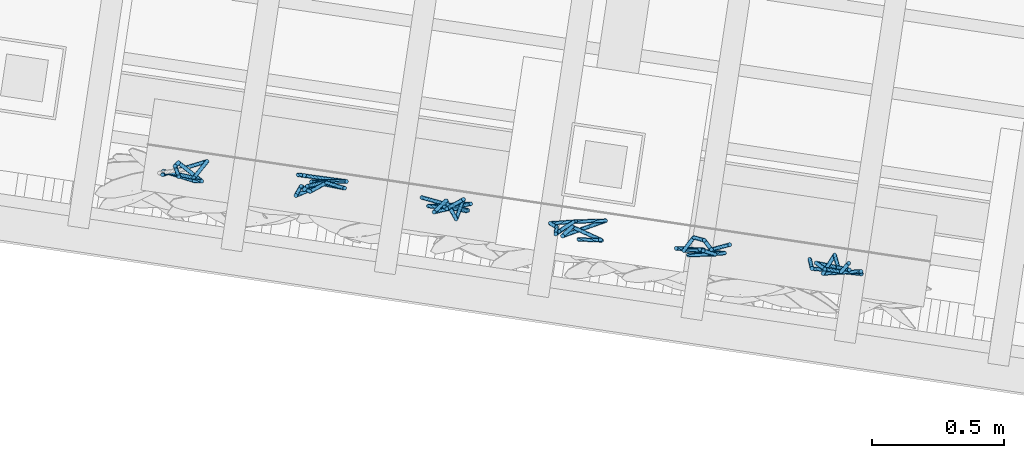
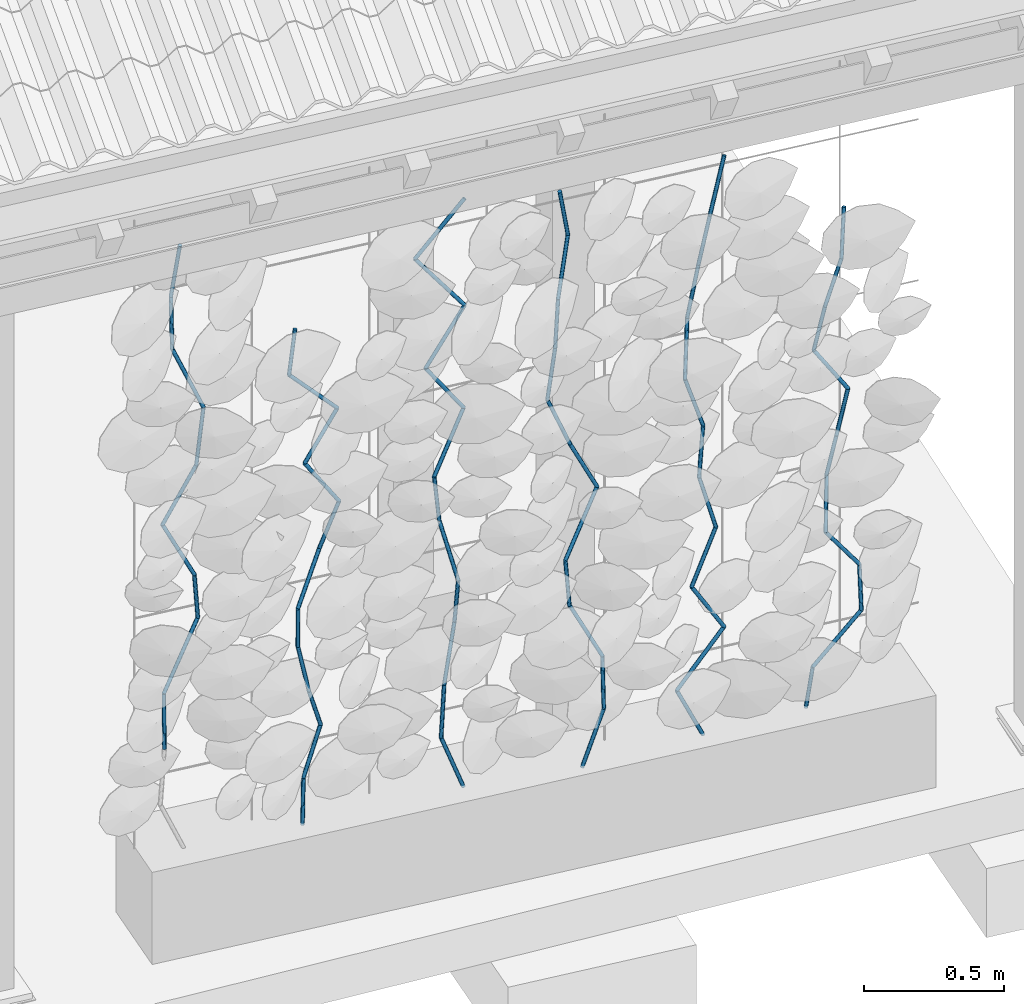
# One storey, part 118 of 131: 64 members, 1 element without a shape of its own.
"""IFC4 building model written with IfcOpenShell, lengths in metres."""

from ifc_helpers import new_model, si_unit, direction, frame, origin_with_axes, place, context, subcontext, project, spatial, circle, extrude, material, material_profile, profile_set, profile_usage, type_object, element, aggregate, save


model = new_model("IFC4")

# Units and contexts
model_context = context("Model", 3, precision=1e-05, world=origin_with_axes(), true_north=direction((0.0, 1.0)))
body_context = subcontext(model_context, "Body", "Model", "MODEL_VIEW")
ifc_project = project(units=[si_unit("AREAUNIT", "SQUARE_METRE"), si_unit("VOLUMEUNIT", "CUBIC_METRE"), si_unit("LENGTHUNIT", "METRE")], contexts=[model_context])

# Site, building, storey
site_placement = place(None, origin_with_axes())
site = spatial("IfcSite", under=ifc_project, at=site_placement, Name="Lares · Rua das Mercês · artigo 4771")
building_placement = place(site_placement, frame((15.0, 9.7, 14.65), z_axis=(0.0, 0.0, 1.0), x_axis=(0.989015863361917, -0.147809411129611, 0.0)))
building = spatial("IfcBuilding", under=site, at=building_placement, Name="Casa Sobreposta")
storey_placement = place(building_placement, origin_with_axes())
storey = spatial("IfcBuildingStorey", under=building, at=storey_placement, Name="00 · Habitação e estacionamento", Elevation=14.65)

# Assembly, members
assembly_placement = place(storey_placement, origin_with_axes())
assembly = element("IfcElementAssembly", 1, at=assembly_placement, inside=storey, Name="Fachada sul e pátio · estrutura e trepadeiras", ObjectType="LIVING_SHADE_TRELLIS", PredefinedType="USERDEFINED")
ifc_material = material(Name="Ramos de trepadeiras", Category="wood")
ifc_material_profile = material_profile(ifc_material, circle(Radius=0.0075))
ifc_profile_set = profile_set([ifc_material_profile], Name="D0.015")
ifc_profile_usage_1 = profile_usage(ifc_profile_set)
member_type = type_object("IfcMemberType", Name="D0.015 / vine_wood", PredefinedType="NOTDEFINED", material=ifc_profile_set)
member_1_placement = place(assembly_placement, frame((28.5749850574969, -1.71359357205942, 0.832915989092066), z_axis=(-0.0115075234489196, -0.00834781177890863, 0.999898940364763), x_axis=(0.999933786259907, -9.6069000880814e-05, 0.0115071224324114)))
member_1 = element("IfcMember", 2, at=member_1_placement, type_object=member_type, material=ifc_profile_usage_1, Name="Trepadeiras · ramo", context=body_context, shape_type="SweptSolid", body=[
    extrude(circle(Radius=0.0075), origin_with_axes(), (0.0, 0.0, 1.0), 0.241482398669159),
])
ifc_profile_usage_2 = profile_usage(ifc_profile_set)
member_2_placement = place(assembly_placement, frame((28.5722061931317, -1.71560942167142, 1.0743739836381), z_axis=(0.533464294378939, 0.251838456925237, 0.807460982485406), x_axis=(0.426902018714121, -0.904297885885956, 0.0)))
member_2 = element("IfcMember", 3, at=member_2_placement, type_object=member_type, material=ifc_profile_usage_2, Name="Trepadeiras · ramo", context=body_context, shape_type="SweptSolid", body=[
    extrude(circle(Radius=0.0075), origin_with_axes(), (0.0, 0.0, 1.0), 0.29903363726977),
])
ifc_profile_usage_3 = profile_usage(ifc_profile_set)
member_3_placement = place(assembly_placement, frame((28.7317299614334, -1.64030125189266, 1.31583197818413), z_axis=(-0.158977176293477, -0.272002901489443, 0.949073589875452), x_axis=(-0.863351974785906, 0.504602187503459, 0.0)))
member_3 = element("IfcMember", 4, at=member_3_placement, type_object=member_type, material=ifc_profile_usage_3, Name="Trepadeiras · ramo", context=body_context, shape_type="SweptSolid", body=[
    extrude(circle(Radius=0.0075), origin_with_axes(), (0.0, 0.0, 1.0), 0.254414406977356),
])
ifc_profile_usage_4 = profile_usage(ifc_profile_set)
member_4_placement = place(assembly_placement, frame((28.6912838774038, -1.70950270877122, 1.55728997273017), z_axis=(-0.441663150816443, 0.0283630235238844, 0.89673251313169), x_axis=(0.0640866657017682, 0.997944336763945, 0.0)))
member_4 = element("IfcMember", 5, at=member_4_placement, type_object=member_type, material=ifc_profile_usage_4, Name="Trepadeiras · ramo", context=body_context, shape_type="SweptSolid", body=[
    extrude(circle(Radius=0.0075), origin_with_axes(), (0.0, 0.0, 1.0), 0.269264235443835),
])
ifc_profile_usage_5 = profile_usage(ifc_profile_set)
member_5_placement = place(assembly_placement, frame((28.5723597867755, -1.70186556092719, 1.7987479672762), z_axis=(0.44971328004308, -0.0700878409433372, 0.890418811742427), x_axis=(-0.153991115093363, -0.988072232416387, 0.0)))
member_5 = element("IfcMember", 6, at=member_5_placement, type_object=member_type, material=ifc_profile_usage_5, Name="Trepadeiras · ramo", context=body_context, shape_type="SweptSolid", body=[
    extrude(circle(Radius=0.0075), origin_with_axes(), (0.0, 0.0, 1.0), 0.271173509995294),
])
ifc_profile_usage_6 = profile_usage(ifc_profile_set)
member_6_placement = place(assembly_placement, frame((28.6943101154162, -1.72087152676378, 2.04020596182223), z_axis=(0.117988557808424, 0.0130437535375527, 0.992929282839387), x_axis=(0.109881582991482, -0.993944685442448, 0.0)))
member_6 = element("IfcMember", 7, at=member_6_placement, type_object=member_type, material=ifc_profile_usage_6, Name="Trepadeiras · ramo", context=body_context, shape_type="SweptSolid", body=[
    extrude(circle(Radius=0.0075), origin_with_axes(), (0.0, 0.0, 1.0), 0.24317743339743),
])
ifc_profile_usage_7 = profile_usage(ifc_profile_set)
member_7_placement = place(assembly_placement, frame((28.7230022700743, -1.71769958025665, 2.28166395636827), z_axis=(-0.366803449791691, 0.210846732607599, 0.906089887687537), x_axis=(0.498355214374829, 0.866972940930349, 0.0)))
member_7 = element("IfcMember", 8, at=member_7_placement, type_object=member_type, material=ifc_profile_usage_7, Name="Trepadeiras · ramo", context=body_context, shape_type="SweptSolid", body=[
    extrude(circle(Radius=0.0075), origin_with_axes(), (0.0, 0.0, 1.0), 0.26648348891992),
])
ifc_profile_usage_8 = profile_usage(ifc_profile_set)
member_8_placement = place(assembly_placement, frame((28.625255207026, -1.66151240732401, 2.5231219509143), z_axis=(-0.0444062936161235, -0.0617658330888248, 0.997102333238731), x_axis=(-0.811939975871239, 0.583740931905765, 0.0)))
member_8 = element("IfcMember", 9, at=member_8_placement, type_object=member_type, material=ifc_profile_usage_8, Name="Trepadeiras · ramo", context=body_context, shape_type="SweptSolid", body=[
    extrude(circle(Radius=0.0075), origin_with_axes(), (0.0, 0.0, 1.0), 0.24215969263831),
])
ifc_profile_usage_9 = profile_usage(ifc_profile_set)
member_9_placement = place(assembly_placement, frame((28.6145017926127, -1.67646960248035, 2.76457994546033), z_axis=(0.0813731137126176, -0.15348360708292, 0.984795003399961), x_axis=(-0.883509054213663, -0.468414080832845, 0.0)))
member_9 = element("IfcMember", 10, at=member_9_placement, type_object=member_type, material=ifc_profile_usage_9, Name="Trepadeiras · ramo", context=body_context, shape_type="SweptSolid", body=[
    extrude(circle(Radius=0.0075), origin_with_axes(), (0.0, 0.0, 1.0), 0.245186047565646),
])
ifc_profile_usage_10 = profile_usage(ifc_profile_set)
member_10_placement = place(assembly_placement, frame((29.112347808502, -1.69130840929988, 0.35), z_axis=(0.0459054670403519, 0.0712523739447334, 0.996401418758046), x_axis=(0.840639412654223, -0.541595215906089, 0.0)))
member_10 = element("IfcMember", 11, at=member_10_placement, type_object=member_type, material=ifc_profile_usage_10, Name="Trepadeiras · ramo", context=body_context, shape_type="SweptSolid", body=[
    extrude(circle(Radius=0.0075), origin_with_axes(), (0.0, 0.0, 1.0), 0.19361986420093),
])
ifc_profile_usage_11 = profile_usage(ifc_profile_set)
member_11_placement = place(assembly_placement, frame((29.1212360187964, -1.67751253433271, 0.542923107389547), z_axis=(0.367595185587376, 0.141279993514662, 0.919191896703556), x_axis=(0.358751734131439, -0.933433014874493, 0.0)))
member_11 = element("IfcMember", 12, at=member_11_placement, type_object=member_type, material=ifc_profile_usage_11, Name="Trepadeiras · ramo", context=body_context, shape_type="SweptSolid", body=[
    extrude(circle(Radius=0.0075), origin_with_axes(), (0.0, 0.0, 1.0), 0.209883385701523),
])
ifc_profile_usage_12 = profile_usage(ifc_profile_set)
member_12_placement = place(assembly_placement, frame((29.1983881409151, -1.64786021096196, 0.735846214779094), z_axis=(-0.3051563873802, -0.231978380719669, 0.92361550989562), x_axis=(-0.605181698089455, 0.796087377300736, 0.0)))
member_12 = element("IfcMember", 13, at=member_12_placement, type_object=member_type, material=ifc_profile_usage_12, Name="Trepadeiras · ramo", context=body_context, shape_type="SweptSolid", body=[
    extrude(circle(Radius=0.0075), origin_with_axes(), (0.0, 0.0, 1.0), 0.208878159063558),
])
ifc_profile_usage_13 = profile_usage(ifc_profile_set)
member_13_placement = place(assembly_placement, frame((29.1346476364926, -1.69631542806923, 0.928769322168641), z_axis=(-0.183770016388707, 0.0772300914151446, 0.979930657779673), x_axis=(0.387431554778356, 0.921898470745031, 0.0)))
member_13 = element("IfcMember", 14, at=member_13_placement, type_object=member_type, material=ifc_profile_usage_13, Name="Trepadeiras · ramo", context=body_context, shape_type="SweptSolid", body=[
    extrude(circle(Radius=0.0075), origin_with_axes(), (0.0, 0.0, 1.0), 0.19687424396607),
])
ifc_profile_usage_14 = profile_usage(ifc_profile_set)
member_14_placement = place(assembly_placement, frame((29.0984680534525, -1.68111081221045, 1.12169242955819), z_axis=(-0.074917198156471, -0.192844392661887, 0.978365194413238), x_axis=(-0.932131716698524, 0.362119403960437, 0.0)))
member_14 = element("IfcMember", 15, at=member_14_placement, type_object=member_type, material=ifc_profile_usage_14, Name="Trepadeiras · ramo", context=body_context, shape_type="SweptSolid", body=[
    extrude(circle(Radius=0.0075), origin_with_axes(), (0.0, 0.0, 1.0), 0.197189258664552),
])
ifc_profile_usage_15 = profile_usage(ifc_profile_set)
member_15_placement = place(assembly_placement, frame((29.0836951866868, -1.71913765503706, 1.31461553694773), z_axis=(0.46899645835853, 0.284231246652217, 0.836214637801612), x_axis=(0.518289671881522, -0.85520513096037, 4.23222490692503e-17)))
member_15 = element("IfcMember", 16, at=member_15_placement, type_object=member_type, material=ifc_profile_usage_15, Name="Trepadeiras · ramo", context=body_context, shape_type="SweptSolid", body=[
    extrude(circle(Radius=0.0075), origin_with_axes(), (0.0, 0.0, 1.0), 0.23071003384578),
])
ifc_profile_usage_16 = profile_usage(ifc_profile_set)
member_16_placement = place(assembly_placement, frame((29.1918973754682, -1.6535626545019, 1.50753864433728), z_axis=(0.344333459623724, -0.0518501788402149, 0.937414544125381), x_axis=(-0.148902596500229, -0.988851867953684, 0.0)))
member_16 = element("IfcMember", 17, at=member_16_placement, type_object=member_type, material=ifc_profile_usage_16, Name="Trepadeiras · ramo", context=body_context, shape_type="SweptSolid", body=[
    extrude(circle(Radius=0.0075), origin_with_axes(), (0.0, 0.0, 1.0), 0.20580340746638),
])
ifc_profile_usage_17 = profile_usage(ifc_profile_set)
member_17_placement = place(assembly_placement, frame((29.2627623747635, -1.66423359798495, 1.70046175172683), z_axis=(-0.556224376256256, 0.0257593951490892, 0.830632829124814), x_axis=(0.0462615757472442, 0.998929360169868, 0.0)))
member_17 = element("IfcMember", 18, at=member_17_placement, type_object=member_type, material=ifc_profile_usage_17, Name="Trepadeiras · ramo", context=body_context, shape_type="SweptSolid", body=[
    extrude(circle(Radius=0.0075), origin_with_axes(), (0.0, 0.0, 1.0), 0.232260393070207),
])
ifc_profile_usage_18 = profile_usage(ifc_profile_set)
member_18_placement = place(assembly_placement, frame((29.133573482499, -1.65825071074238, 1.89338485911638), z_axis=(0.565369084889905, 0.0880131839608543, 0.820128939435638), x_axis=(0.153821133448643, -0.988098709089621, 0.0)))
member_18 = element("IfcMember", 19, at=member_18_placement, type_object=member_type, material=ifc_profile_usage_18, Name="Trepadeiras · ramo", context=body_context, shape_type="SweptSolid", body=[
    extrude(circle(Radius=0.0075), origin_with_axes(), (0.0, 0.0, 1.0), 0.235235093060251),
])
ifc_profile_usage_19 = profile_usage(ifc_profile_set)
member_19_placement = place(assembly_placement, frame((29.2665681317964, -1.63754692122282, 2.08630796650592), z_axis=(-0.693244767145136, -0.00975573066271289, 0.720636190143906), x_axis=(-0.0140711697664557, 0.999900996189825, 0.0)))
member_19 = element("IfcMember", 20, at=member_19_placement, type_object=member_type, material=ifc_profile_usage_19, Name="Trepadeiras · ramo", context=body_context, shape_type="SweptSolid", body=[
    extrude(circle(Radius=0.0075), origin_with_axes(), (0.0, 0.0, 1.0), 0.267712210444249),
])
ifc_profile_usage_20 = profile_usage(ifc_profile_set)
member_20_placement = place(assembly_placement, frame((29.0809780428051, -1.64015864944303, 2.27923107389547), z_axis=(0.120581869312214, 0.0060911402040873, 0.992684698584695), x_axis=(0.0504502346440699, -0.998726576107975, 0.0)))
member_20 = element("IfcMember", 21, at=member_20_placement, type_object=member_type, material=ifc_profile_usage_20, Name="Trepadeiras · ramo", context=body_context, shape_type="SweptSolid", body=[
    extrude(circle(Radius=0.0075), origin_with_axes(), (0.0, 0.0, 1.0), 0.194344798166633),
])
ifc_profile_usage_21 = profile_usage(ifc_profile_set)
member_21_placement = place(assembly_placement, frame((29.7317866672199, -1.68120411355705, 0.35), z_axis=(-0.340028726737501, 0.0134025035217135, 0.940319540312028), x_axis=(0.0393852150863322, 0.999224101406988, 2.396751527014e-18)))
member_21 = element("IfcMember", 22, at=member_21_placement, type_object=member_type, material=ifc_profile_usage_21, Name="Trepadeiras · ramo", context=body_context, shape_type="SweptSolid", body=[
    extrude(circle(Radius=0.0075), origin_with_axes(), (0.0, 0.0, 1.0), 0.246825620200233),
])
ifc_profile_usage_22 = profile_usage(ifc_profile_set)
member_22_placement = place(assembly_placement, frame((29.647858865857, -1.67789603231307, 0.582094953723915), z_axis=(0.0399997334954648, -0.026016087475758, 0.998860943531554), x_axis=(-0.545227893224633, -0.838287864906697, 0.0)))
member_22 = element("IfcMember", 23, at=member_22_placement, type_object=member_type, material=ifc_profile_usage_22, Name="Trepadeiras · ramo", context=body_context, shape_type="SweptSolid", body=[
    extrude(circle(Radius=0.0075), origin_with_axes(), (0.0, 0.0, 1.0), 0.232359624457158),
])
ifc_profile_usage_23 = profile_usage(ifc_profile_set)
member_23_placement = place(assembly_placement, frame((29.6571531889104, -1.68394112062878, 0.814189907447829), z_axis=(0.235799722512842, 0.183261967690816, 0.954365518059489), x_axis=(0.613653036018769, -0.789575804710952, 0.0)))
member_23 = element("IfcMember", 24, at=member_23_placement, type_object=member_type, material=ifc_profile_usage_23, Name="Trepadeiras · ramo", context=body_context, shape_type="SweptSolid", body=[
    extrude(circle(Radius=0.0075), origin_with_axes(), (0.0, 0.0, 1.0), 0.243192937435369),
])
ifc_profile_usage_24 = profile_usage(ifc_profile_set)
member_24_placement = place(assembly_placement, frame((29.7144980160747, -1.63937310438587, 1.04628486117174), z_axis=(-0.0670096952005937, -0.316654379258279, 0.946171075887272), x_axis=(-0.978333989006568, 0.207032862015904, 0.0)))
member_24 = element("IfcMember", 25, at=member_24_placement, type_object=member_type, material=ifc_profile_usage_24, Name="Trepadeiras · ramo", context=body_context, shape_type="SweptSolid", body=[
    extrude(circle(Radius=0.0075), origin_with_axes(), (0.0, 0.0, 1.0), 0.245299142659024),
])
ifc_profile_usage_25 = profile_usage(ifc_profile_set)
member_25_placement = place(assembly_placement, frame((29.6980605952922, -1.71704815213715, 1.27837981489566), z_axis=(-0.19641976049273, 0.256738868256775, 0.946310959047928), x_axis=(0.794223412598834, 0.607625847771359, 0.0)))
member_25 = element("IfcMember", 26, at=member_25_placement, type_object=member_type, material=ifc_profile_usage_25, Name="Trepadeiras · ramo", context=body_context, shape_type="SweptSolid", body=[
    extrude(circle(Radius=0.0075), origin_with_axes(), (0.0, 0.0, 1.0), 0.245262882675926),
])
ifc_profile_usage_26 = profile_usage(ifc_profile_set)
member_26_placement = place(assembly_placement, frame((29.6498861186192, -1.65407963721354, 1.51047476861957), z_axis=(-0.160183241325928, -0.205358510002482, 0.965489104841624), x_axis=(-0.788495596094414, 0.615040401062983, 0.0)))
member_26 = element("IfcMember", 27, at=member_26_placement, type_object=member_type, material=ifc_profile_usage_26, Name="Trepadeiras · ramo", context=body_context, shape_type="SweptSolid", body=[
    extrude(circle(Radius=0.0075), origin_with_axes(), (0.0, 0.0, 1.0), 0.240391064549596),
])
ifc_profile_usage_27 = profile_usage(ifc_profile_set)
member_27_placement = place(assembly_placement, frame((29.6113794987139, -1.70344598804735, 1.74256972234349), z_axis=(0.487994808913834, 0.190415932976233, 0.851823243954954), x_axis=(0.363507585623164, -0.931591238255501, 0.0)))
member_27 = element("IfcMember", 28, at=member_27_placement, type_object=member_type, material=ifc_profile_usage_27, Name="Trepadeiras · ramo", context=body_context, shape_type="SweptSolid", body=[
    extrude(circle(Radius=0.0075), origin_with_axes(), (0.0, 0.0, 1.0), 0.272468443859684),
])
ifc_profile_usage_28 = profile_usage(ifc_profile_set)
member_28_placement = place(assembly_placement, frame((29.7443426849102, -1.65156365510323, 1.9746646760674), z_axis=(-0.560332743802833, -0.115226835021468, 0.8202133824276), x_axis=(-0.201425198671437, 0.979503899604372, 0.0)))
member_28 = element("IfcMember", 29, at=member_28_placement, type_object=member_type, material=ifc_profile_usage_28, Name="Trepadeiras · ramo", context=body_context, shape_type="SweptSolid", body=[
    extrude(circle(Radius=0.0075), origin_with_axes(), (0.0, 0.0, 1.0), 0.282968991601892),
])
ifc_profile_usage_29 = profile_usage(ifc_profile_set)
member_29_placement = place(assembly_placement, frame((29.5857858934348, -1.68416927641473, 2.20675962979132), z_axis=(0.548330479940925, 0.0211627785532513, 0.835993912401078), x_axis=(0.038566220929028, -0.999256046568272, 0.0)))
member_29 = element("IfcMember", 30, at=member_29_placement, type_object=member_type, material=ifc_profile_usage_29, Name="Trepadeiras · ramo", context=body_context, shape_type="SweptSolid", body=[
    extrude(circle(Radius=0.0075), origin_with_axes(), (0.0, 0.0, 1.0), 0.277627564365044),
])
ifc_profile_usage_30 = profile_usage(ifc_profile_set)
member_30_placement = place(assembly_placement, frame((29.7380175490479, -1.67829390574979, 2.43885458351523), z_axis=(-0.614491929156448, 0.0768333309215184, 0.785172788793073), x_axis=(0.124069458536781, 0.992273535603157, 0.0)))
member_30 = element("IfcMember", 31, at=member_30_placement, type_object=member_type, material=ifc_profile_usage_30, Name="Trepadeiras · ramo", context=body_context, shape_type="SweptSolid", body=[
    extrude(circle(Radius=0.0075), origin_with_axes(), (0.0, 0.0, 1.0), 0.295597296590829),
])
ifc_profile_usage_31 = profile_usage(ifc_profile_set)
member_31_placement = place(assembly_placement, frame((29.5563753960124, -1.65558218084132, 2.67094953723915), z_axis=(0.614559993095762, -0.0754962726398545, 0.785249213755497), x_axis=(-0.121929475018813, -0.992538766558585, 0.0)))
member_31 = element("IfcMember", 32, at=member_31_placement, type_object=member_type, material=ifc_profile_usage_31, Name="Trepadeiras · ramo", context=body_context, shape_type="SweptSolid", body=[
    extrude(circle(Radius=0.0075), origin_with_axes(), (0.0, 0.0, 1.0), 0.29556852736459),
])
ifc_profile_usage_32 = profile_usage(ifc_profile_set)
member_32_placement = place(assembly_placement, frame((30.1688478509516, -1.72486609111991, 0.35), z_axis=(0.354210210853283, 0.0375804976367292, 0.934410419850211), x_axis=(0.105504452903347, -0.994418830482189, 0.0)))
member_32 = element("IfcMember", 33, at=member_32_placement, type_object=member_type, material=ifc_profile_usage_32, Name="Trepadeiras · ramo", context=body_context, shape_type="SweptSolid", body=[
    extrude(circle(Radius=0.0075), origin_with_axes(), (0.0, 0.0, 1.0), 0.244269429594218),
])
ifc_profile_usage_33 = profile_usage(ifc_profile_set)
member_33_placement = place(assembly_placement, frame((30.2553705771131, -1.71568632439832, 0.578247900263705), z_axis=(-0.0207317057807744, 0.0073157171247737, 0.999758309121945), x_axis=(0.999785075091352, 0.000151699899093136, 0.0207311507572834)))
member_33 = element("IfcMember", 34, at=member_33_placement, type_object=member_type, material=ifc_profile_usage_33, Name="Trepadeiras · ramo", context=body_context, shape_type="SweptSolid", body=[
    extrude(circle(Radius=0.0075), origin_with_axes(), (0.0, 0.0, 1.0), 0.22830307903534),
])
ifc_profile_usage_34 = profile_usage(ifc_profile_set)
member_34_placement = place(assembly_placement, frame((30.2506374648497, -1.71401612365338, 0.80649580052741), z_axis=(-0.440679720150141, 0.126938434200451, 0.888643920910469), x_axis=(0.276796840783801, 0.96092846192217, -1.34457803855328e-17)))
member_34 = element("IfcMember", 35, at=member_34_placement, type_object=member_type, material=ifc_profile_usage_34, Name="Trepadeiras · ramo", context=body_context, shape_type="SweptSolid", body=[
    extrude(circle(Radius=0.0075), origin_with_axes(), (0.0, 0.0, 1.0), 0.256849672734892),
])
ifc_profile_usage_35 = profile_usage(ifc_profile_set)
member_35_placement = place(assembly_placement, frame((30.1374490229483, -1.68141202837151, 1.03474370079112), z_axis=(-0.132643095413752, -0.169738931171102, 0.976521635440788), x_axis=(-0.787946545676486, 0.615743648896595, 0.0)))
member_35 = element("IfcMember", 36, at=member_35_placement, type_object=member_type, material=ifc_profile_usage_35, Name="Trepadeiras · ramo", context=body_context, shape_type="SweptSolid", body=[
    extrude(circle(Radius=0.0075), origin_with_axes(), (0.0, 0.0, 1.0), 0.233735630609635),
])
ifc_profile_usage_36 = profile_usage(ifc_profile_set)
member_36_placement = place(assembly_placement, frame((30.1064456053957, -1.7210860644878, 1.26299160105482), z_axis=(0.534234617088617, 0.284294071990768, 0.796096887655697), x_axis=(0.46977618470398, -0.882785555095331, 0.0)))
member_36 = element("IfcMember", 37, at=member_36_placement, type_object=member_type, material=ifc_profile_usage_36, Name="Trepadeiras · ramo", context=body_context, shape_type="SweptSolid", body=[
    extrude(circle(Radius=0.0075), origin_with_axes(), (0.0, 0.0, 1.0), 0.286708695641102),
])
ifc_profile_usage_37 = profile_usage(ifc_profile_set)
member_37_placement = place(assembly_placement, frame((30.2596153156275, -1.63957648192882, 1.49123950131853), z_axis=(-0.439127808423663, -0.0792948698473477, 0.894918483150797), x_axis=(-0.177699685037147, 0.984084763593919, 0.0)))
member_37 = element("IfcMember", 38, at=member_37_placement, type_object=member_type, material=ifc_profile_usage_37, Name="Trepadeiras · ramo", context=body_context, shape_type="SweptSolid", body=[
    extrude(circle(Radius=0.0075), origin_with_axes(), (0.0, 0.0, 1.0), 0.255048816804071),
])
ifc_profile_usage_38 = profile_usage(ifc_profile_set)
member_38_placement = place(assembly_placement, frame((30.1476162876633, -1.65980054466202, 1.71948740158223), z_axis=(-0.380194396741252, -0.083436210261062, 0.921135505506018), x_axis=(-0.214355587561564, 0.976755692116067, 0.0)))
member_38 = element("IfcMember", 39, at=member_38_placement, type_object=member_type, material=ifc_profile_usage_38, Name="Trepadeiras · ramo", context=body_context, shape_type="SweptSolid", body=[
    extrude(circle(Radius=0.0075), origin_with_axes(), (0.0, 0.0, 1.0), 0.247789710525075),
])
ifc_profile_usage_39 = profile_usage(ifc_profile_set)
member_39_placement = place(assembly_placement, frame((30.0534080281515, -1.68047517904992, 1.94773530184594), z_axis=(0.112249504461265, -0.0470598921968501, 0.992565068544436), x_axis=(-0.38663947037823, -0.922230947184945, 0.0)))
member_39 = element("IfcMember", 40, at=member_39_placement, type_object=member_type, material=ifc_profile_usage_39, Name="Trepadeiras · ramo", context=body_context, shape_type="SweptSolid", body=[
    extrude(circle(Radius=0.0075), origin_with_axes(), (0.0, 0.0, 1.0), 0.229957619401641),
])
ifc_profile_usage_40 = profile_usage(ifc_profile_set)
member_40_placement = place(assembly_placement, frame((30.0792206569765, -1.69129695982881, 2.17598320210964), z_axis=(0.00276000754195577, -0.114360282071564, 0.993435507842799), x_axis=(-0.999708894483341, -0.0241272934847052, 0.0)))
member_40 = element("IfcMember", 41, at=member_40_placement, type_object=member_type, material=ifc_profile_usage_40, Name="Trepadeiras · ramo", context=body_context, shape_type="SweptSolid", body=[
    extrude(circle(Radius=0.0075), origin_with_axes(), (0.0, 0.0, 1.0), 0.229756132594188),
])
ifc_profile_usage_41 = profile_usage(ifc_profile_set)
member_41_placement = place(assembly_placement, frame((30.0798547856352, -1.71757193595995, 2.40423110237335), z_axis=(0.243826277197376, 0.225510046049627, 0.943235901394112), x_axis=(0.678994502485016, -0.734143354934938, 0.0)))
member_41 = element("IfcMember", 42, at=member_41_placement, type_object=member_type, material=ifc_profile_usage_41, Name="Trepadeiras · ramo", context=body_context, shape_type="SweptSolid", body=[
    extrude(circle(Radius=0.0075), origin_with_axes(), (0.0, 0.0, 1.0), 0.241983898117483),
])
ifc_profile_usage_42 = profile_usage(ifc_profile_set)
member_42_placement = place(assembly_placement, frame((30.1388568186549, -1.66300213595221, 2.63247900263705), z_axis=(-0.203161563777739, -0.180478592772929, 0.962368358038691), x_axis=(-0.66413878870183, 0.747609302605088, 0.0)))
member_42 = element("IfcMember", 43, at=member_42_placement, type_object=member_type, material=ifc_profile_usage_42, Name="Trepadeiras · ramo", context=body_context, shape_type="SweptSolid", body=[
    extrude(circle(Radius=0.0075), origin_with_axes(), (0.0, 0.0, 1.0), 0.23717311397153),
])
ifc_profile_usage_43 = profile_usage(ifc_profile_set)
member_43_placement = place(assembly_placement, frame((30.6435672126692, -1.69358143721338, 0.35), z_axis=(-0.420393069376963, -0.0412524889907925, 0.906403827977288), x_axis=(-0.097659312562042, 0.995219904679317, 0.0)))
member_43 = element("IfcMember", 44, at=member_43_placement, type_object=member_type, material=ifc_profile_usage_43, Name="Trepadeiras · ramo", context=body_context, shape_type="SweptSolid", body=[
    extrude(circle(Radius=0.0075), origin_with_axes(), (0.0, 0.0, 1.0), 0.247882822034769),
])
ifc_profile_usage_44 = profile_usage(ifc_profile_set)
member_44_placement = place(assembly_placement, frame((30.5393589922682, -1.70380722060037, 0.574681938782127), z_axis=(0.634611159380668, 0.0311753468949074, 0.772202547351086), x_axis=(0.0490659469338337, -0.99879554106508, 0.0)))
member_44 = element("IfcMember", 45, at=member_44_placement, type_object=member_type, material=ifc_profile_usage_44, Name="Trepadeiras · ramo", context=body_context, shape_type="SweptSolid", body=[
    extrude(circle(Radius=0.0075), origin_with_axes(), (0.0, 0.0, 1.0), 0.290962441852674),
])
ifc_profile_usage_45 = profile_usage(ifc_profile_set)
member_45_placement = place(assembly_placement, frame((30.7240070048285, -1.69473636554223, 0.799363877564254), z_axis=(-0.51201860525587, -0.103295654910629, 0.852740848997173), x_axis=(-0.197757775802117, 0.980250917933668, 0.0)))
member_45 = element("IfcMember", 46, at=member_45_placement, type_object=member_type, material=ifc_profile_usage_45, Name="Trepadeiras · ramo", context=body_context, shape_type="SweptSolid", body=[
    extrude(circle(Radius=0.0075), origin_with_axes(), (0.0, 0.0, 1.0), 0.263482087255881),
])
ifc_profile_usage_46 = profile_usage(ifc_profile_set)
member_46_placement = place(assembly_placement, frame((30.5890992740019, -1.72195292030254, 1.02404581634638), z_axis=(0.403950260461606, 0.0688871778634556, 0.912183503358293), x_axis=(0.168106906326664, -0.985768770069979, 0.0)))
member_46 = element("IfcMember", 47, at=member_46_placement, type_object=member_type, material=ifc_profile_usage_46, Name="Trepadeiras · ramo", context=body_context, shape_type="SweptSolid", body=[
    extrude(circle(Radius=0.0075), origin_with_axes(), (0.0, 0.0, 1.0), 0.246312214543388),
])
ifc_profile_usage_47 = profile_usage(ifc_profile_set)
member_47_placement = place(assembly_placement, frame((30.6885971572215, -1.70498516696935, 1.24872775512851), z_axis=(-0.257877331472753, 0.0443312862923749, 0.96516010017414), x_axis=(0.16942321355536, 0.985543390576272, 0.0)))
member_47 = element("IfcMember", 48, at=member_47_placement, type_object=member_type, material=ifc_profile_usage_47, Name="Trepadeiras · ramo", context=body_context, shape_type="SweptSolid", body=[
    extrude(circle(Radius=0.0075), origin_with_axes(), (0.0, 0.0, 1.0), 0.23279240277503),
])
ifc_profile_usage_48 = profile_usage(ifc_profile_set)
member_48_placement = place(assembly_placement, frame((30.6285652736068, -1.69466518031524, 1.47340969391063), z_axis=(0.0610607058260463, -0.0125842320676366, 0.998054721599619), x_axis=(-0.20185157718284, -0.979416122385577, 0.0)))
member_48 = element("IfcMember", 49, at=member_48_placement, type_object=member_type, material=ifc_profile_usage_48, Name="Trepadeiras · ramo", context=body_context, shape_type="SweptSolid", body=[
    extrude(circle(Radius=0.0075), origin_with_axes(), (0.0, 0.0, 1.0), 0.22511985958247),
])
ifc_profile_usage_49 = profile_usage(ifc_profile_set)
member_49_placement = place(assembly_placement, frame((30.6423112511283, -1.69749814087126, 1.69809163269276), z_axis=(-0.308558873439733, -0.0423463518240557, 0.950262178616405), x_axis=(-0.135964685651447, 0.990713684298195, 0.0)))
member_49 = element("IfcMember", 50, at=member_49_placement, type_object=member_type, material=ifc_profile_usage_49, Name="Trepadeiras · ramo", context=body_context, shape_type="SweptSolid", body=[
    extrude(circle(Radius=0.0075), origin_with_axes(), (0.0, 0.0, 1.0), 0.236442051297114),
])
ifc_profile_usage_50 = profile_usage(ifc_profile_set)
member_50_placement = place(assembly_placement, frame((30.5693549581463, -1.70751059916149, 1.92277357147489), z_axis=(0.12852965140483, 0.233275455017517, 0.963878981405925), x_axis=(0.875853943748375, -0.482576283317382, 0.0)))
member_50 = element("IfcMember", 51, at=member_50_placement, type_object=member_type, material=ifc_profile_usage_50, Name="Trepadeiras · ramo", context=body_context, shape_type="SweptSolid", body=[
    extrude(circle(Radius=0.0075), origin_with_axes(), (0.0, 0.0, 1.0), 0.233101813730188),
])
ifc_profile_usage_51 = profile_usage(ifc_profile_set)
member_51_placement = place(assembly_placement, frame((30.5993154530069, -1.65313366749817, 2.14745551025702), z_axis=(0.180943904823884, -0.0208270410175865, 0.983272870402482), x_axis=(-0.114347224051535, -0.99344084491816, 0.0)))
member_51 = element("IfcMember", 52, at=member_51_placement, type_object=member_type, material=ifc_profile_usage_51, Name="Trepadeiras · ramo", context=body_context, shape_type="SweptSolid", body=[
    extrude(circle(Radius=0.0075), origin_with_axes(), (0.0, 0.0, 1.0), 0.22850415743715),
])
ifc_profile_usage_52 = profile_usage(ifc_profile_set)
member_52_placement = place(assembly_placement, frame((30.6406618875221, -1.6578927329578, 2.37213744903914), z_axis=(0.138114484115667, -0.135062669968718, 0.981163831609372), x_axis=(-0.699163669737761, -0.714961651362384, 0.0)))
member_52 = element("IfcMember", 53, at=member_52_placement, type_object=member_type, material=ifc_profile_usage_52, Name="Trepadeiras · ramo", context=body_context, shape_type="SweptSolid", body=[
    extrude(circle(Radius=0.0075), origin_with_axes(), (0.0, 0.0, 1.0), 0.228995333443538),
])
ifc_profile_usage_53 = profile_usage(ifc_profile_set)
member_53_placement = place(assembly_placement, frame((30.6722894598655, -1.68882145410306, 2.59681938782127), z_axis=(0.280115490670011, 0.122671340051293, 0.952096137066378), x_axis=(0.401150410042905, -0.916012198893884, -2.16040503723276e-17)))
member_53 = element("IfcMember", 54, at=member_53_placement, type_object=member_type, material=ifc_profile_usage_53, Name="Trepadeiras · ramo", context=body_context, shape_type="SweptSolid", body=[
    extrude(circle(Radius=0.0075), origin_with_axes(), (0.0, 0.0, 1.0), 0.23598660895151),
])
ifc_profile_usage_54 = profile_usage(ifc_profile_set)
member_54_placement = place(assembly_placement, frame((31.0467914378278, -1.67017096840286, 0.35), z_axis=(0.0671512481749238, -0.168174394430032, 0.983467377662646), x_axis=(-0.928702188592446, -0.370826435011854, 0.0)))
member_54 = element("IfcMember", 55, at=member_54_placement, type_object=member_type, material=ifc_profile_usage_54, Name="Trepadeiras · ramo", context=body_context, shape_type="SweptSolid", body=[
    extrude(circle(Radius=0.0075), origin_with_axes(), (0.0, 0.0, 1.0), 0.19717337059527),
])
ifc_profile_usage_55 = profile_usage(ifc_profile_set)
member_55_placement = place(assembly_placement, frame((31.0600318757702, -1.70333048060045, 0.543913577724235), z_axis=(0.697029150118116, 0.0275551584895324, 0.716513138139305), x_axis=(0.0395014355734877, -0.999219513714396, 0.0)))
member_55 = element("IfcMember", 56, at=member_55_placement, type_object=member_type, material=ifc_profile_usage_55, Name="Trepadeiras · ramo", context=body_context, shape_type="SweptSolid", body=[
    extrude(circle(Radius=0.0075), origin_with_axes(), (0.0, 0.0, 1.0), 0.270635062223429),
])
ifc_profile_usage_56 = profile_usage(ifc_profile_set)
member_56_placement = place(assembly_placement, frame((31.2486724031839, -1.69587308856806, 0.737827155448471), z_axis=(-0.018268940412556, 0.0484469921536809, 0.998658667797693), x_axis=(0.935684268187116, 0.352838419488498, 0.0)))
member_56 = element("IfcMember", 57, at=member_56_placement, type_object=member_type, material=ifc_profile_usage_56, Name="Trepadeiras · ramo", context=body_context, shape_type="SweptSolid", body=[
    extrude(circle(Radius=0.0075), origin_with_axes(), (0.0, 0.0, 1.0), 0.194174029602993),
])
ifc_profile_usage_57 = profile_usage(ifc_profile_set)
member_57_placement = place(assembly_placement, frame((31.2451250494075, -1.68646594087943, 0.931740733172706), z_axis=(-0.582503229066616, -0.12229763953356, 0.803575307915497), x_axis=(-0.205472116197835, 0.978662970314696, 0.0)))
member_57 = element("IfcMember", 58, at=member_57_placement, type_object=member_type, material=ifc_profile_usage_57, Name="Trepadeiras · ramo", context=body_context, shape_type="SweptSolid", body=[
    extrude(circle(Radius=0.0075), origin_with_axes(), (0.0, 0.0, 1.0), 0.241313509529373),
])
ifc_profile_usage_58 = profile_usage(ifc_profile_set)
member_58_placement = place(assembly_placement, frame((31.1045591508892, -1.71597801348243, 1.12565431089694), z_axis=(0.157157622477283, 0.359853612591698, 0.919677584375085), x_axis=(0.916417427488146, -0.400223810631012, 0.0)))
member_58 = element("IfcMember", 59, at=member_58_placement, type_object=member_type, material=ifc_profile_usage_58, Name="Trepadeiras · ramo", context=body_context, shape_type="SweptSolid", body=[
    extrude(circle(Radius=0.0075), origin_with_axes(), (0.0, 0.0, 1.0), 0.210849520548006),
])
ifc_profile_usage_59 = profile_usage(ifc_profile_set)
member_59_placement = place(assembly_placement, frame((31.137695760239, -1.64010305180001, 1.31956788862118), z_axis=(0.101722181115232, -0.222881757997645, 0.969523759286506), x_axis=(-0.909731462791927, -0.415197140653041, 0.0)))
member_59 = element("IfcMember", 60, at=member_59_placement, type_object=member_type, material=ifc_profile_usage_59, Name="Trepadeiras · ramo", context=body_context, shape_type="SweptSolid", body=[
    extrude(circle(Radius=0.0075), origin_with_axes(), (0.0, 0.0, 1.0), 0.200009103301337),
])
ifc_profile_usage_60 = profile_usage(ifc_profile_set)
member_60_placement = place(assembly_placement, frame((31.1580411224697, -1.68468143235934, 1.51348146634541), z_axis=(0.216259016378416, -0.0136234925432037, 0.976240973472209), x_axis=(-0.0628715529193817, -0.998021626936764, 0.0)))
member_60 = element("IfcMember", 61, at=member_60_placement, type_object=member_type, material=ifc_profile_usage_60, Name="Trepadeiras · ramo", context=body_context, shape_type="SweptSolid", body=[
    extrude(circle(Radius=0.0075), origin_with_axes(), (0.0, 0.0, 1.0), 0.198632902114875),
])
ifc_profile_usage_61 = profile_usage(ifc_profile_set)
member_61_placement = place(assembly_placement, frame((31.2009972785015, -1.68738750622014, 1.70739504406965), z_axis=(-0.551350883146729, 0.0309322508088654, 0.833699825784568), x_axis=(0.056014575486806, 0.998429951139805, 0.0)))
member_61 = element("IfcMember", 62, at=member_61_placement, type_object=member_type, material=ifc_profile_usage_61, Name="Trepadeiras · ramo", context=body_context, shape_type="SweptSolid", body=[
    extrude(circle(Radius=0.0075), origin_with_axes(), (0.0, 0.0, 1.0), 0.232594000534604),
])
ifc_profile_usage_62 = profile_usage(ifc_profile_set)
member_62_placement = place(assembly_placement, frame((31.0727563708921, -1.68019285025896, 1.90130862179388), z_axis=(0.181438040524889, -0.0922044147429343, 0.979070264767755), x_axis=(-0.453042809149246, -0.891488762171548, 0.0)))
member_62 = element("IfcMember", 63, at=member_62_placement, type_object=member_type, material=ifc_profile_usage_62, Name="Trepadeiras · ramo", context=body_context, shape_type="SweptSolid", body=[
    extrude(circle(Radius=0.0075), origin_with_axes(), (0.0, 0.0, 1.0), 0.198058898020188),
])
ifc_profile_usage_63 = profile_usage(ifc_profile_set)
member_63_placement = place(assembly_placement, frame((31.1086917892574, -1.69845475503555, 2.09522219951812), z_axis=(0.308462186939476, -0.00357083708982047, 0.951229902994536), x_axis=(-0.0115754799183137, -0.999933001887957, 0.0)))
member_63 = element("IfcMember", 64, at=member_63_placement, type_object=member_type, material=ifc_profile_usage_63, Name="Trepadeiras · ramo", context=body_context, shape_type="SweptSolid", body=[
    extrude(circle(Radius=0.0075), origin_with_axes(), (0.0, 0.0, 1.0), 0.203855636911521),
])
ifc_profile_usage_64 = profile_usage(ifc_profile_set)
member_64_placement = place(assembly_placement, frame((31.171573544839, -1.6991826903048, 2.28913577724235), z_axis=(0.117919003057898, 0.18423525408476, 0.975783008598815), x_axis=(0.842253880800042, -0.539081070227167, 0.0)))
member_64 = element("IfcMember", 65, at=member_64_placement, type_object=member_type, material=ifc_profile_usage_64, Name="Trepadeiras · ramo", context=body_context, shape_type="SweptSolid", body=[
    extrude(circle(Radius=0.0075), origin_with_axes(), (0.0, 0.0, 1.0), 0.198726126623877),
])
aggregate(assembly, [member_1, member_2, member_3, member_4, member_5, member_6, member_7, member_8, member_9, member_10, member_11, member_12, member_13, member_14, member_15, member_16, member_17, member_18, member_19, member_20, member_21, member_22, member_23, member_24, member_25, member_26, member_27, member_28, member_29, member_30, member_31, member_32, member_33, member_34, member_35, member_36, member_37, member_38, member_39, member_40, member_41, member_42, member_43, member_44, member_45, member_46, member_47, member_48, member_49, member_50, member_51, member_52, member_53, member_54, member_55, member_56, member_57, member_58, member_59, member_60, member_61, member_62, member_63, member_64])

save(model, "model.ifc")
